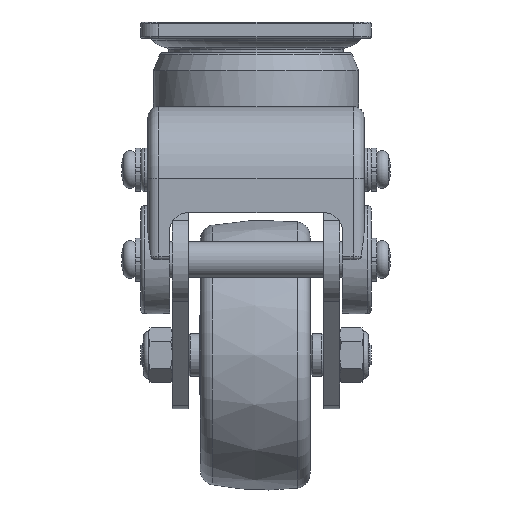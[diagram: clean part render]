
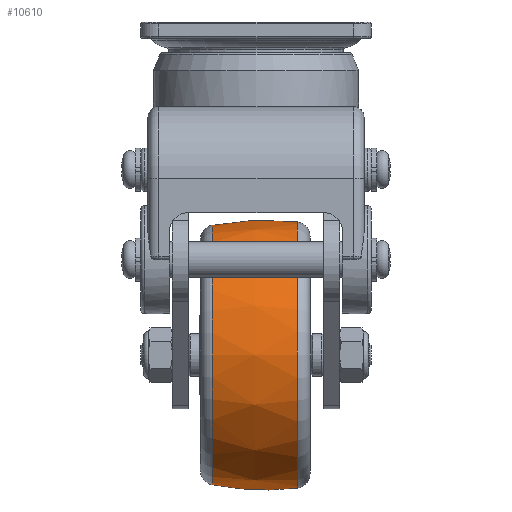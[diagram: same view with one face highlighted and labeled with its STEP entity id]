
A CAD part, left-side view. The second image highlights one B-rep face of the part: STEP entity #10610.
In plain terms, the highlighted free-form (B-spline) face has degree [2, 2] with [3, 9] control points.
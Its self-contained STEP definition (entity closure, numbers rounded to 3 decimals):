
#267=(
BOUNDED_SURFACE()
B_SPLINE_SURFACE(2,2,((#16954,#16955,#16956,#16957,#16958,#16959,#16960,
#16961,#16962),(#16963,#16964,#16965,#16966,#16967,#16968,#16969,#16970,
#16971),(#16972,#16973,#16974,#16975,#16976,#16977,#16978,#16979,#16980)),
 .UNSPECIFIED.,.F.,.T.,.F.)
B_SPLINE_SURFACE_WITH_KNOTS((3,3),(3,2,2,2,3),(-0.119,0.198),
(-3.142,-1.571,0.,1.571,3.142),
 .UNSPECIFIED.)
GEOMETRIC_REPRESENTATION_ITEM()
RATIONAL_B_SPLINE_SURFACE(((1.,0.707,1.,0.707,1.,
0.707,1.,0.707,1.),(0.987,0.698,
0.987,0.698,0.987,0.698,
0.987,0.698,0.987),(1.,0.707,
1.,0.707,1.,0.707,1.,0.707,1.)))
REPRESENTATION_ITEM('')
SURFACE()
);
#2890=FACE_OUTER_BOUND('',#3550,.T.);
#3550=EDGE_LOOP('',(#8589,#8590,#8591,#8592,#8593,#8594));
#4269=CIRCLE('',#11709,36.968);
#4270=CIRCLE('',#11710,36.968);
#4272=CIRCLE('',#11712,36.031);
#4273=CIRCLE('',#11713,36.031);
#4274=CIRCLE('',#11714,75.);
#4889=VERTEX_POINT('',#16949);
#4890=VERTEX_POINT('',#16950);
#4891=VERTEX_POINT('',#16981);
#4892=VERTEX_POINT('',#16982);
#6210=EDGE_CURVE('',#4889,#4890,#4269,.T.);
#6211=EDGE_CURVE('',#4890,#4889,#4270,.T.);
#6213=EDGE_CURVE('',#4891,#4892,#4272,.T.);
#6214=EDGE_CURVE('',#4892,#4891,#4273,.T.);
#6215=EDGE_CURVE('',#4892,#4890,#4274,.T.);
#8589=ORIENTED_EDGE('',*,*,#6213,.F.);
#8590=ORIENTED_EDGE('',*,*,#6214,.F.);
#8591=ORIENTED_EDGE('',*,*,#6215,.T.);
#8592=ORIENTED_EDGE('',*,*,#6211,.T.);
#8593=ORIENTED_EDGE('',*,*,#6210,.T.);
#8594=ORIENTED_EDGE('',*,*,#6215,.F.);
#10610=ADVANCED_FACE('',(#2890),#267,.F.);
#11709=AXIS2_PLACEMENT_3D('',#16951,#13773,#13774);
#11710=AXIS2_PLACEMENT_3D('',#16952,#13775,#13776);
#11712=AXIS2_PLACEMENT_3D('',#16983,#13779,#13780);
#11713=AXIS2_PLACEMENT_3D('',#16984,#13781,#13782);
#11714=AXIS2_PLACEMENT_3D('',#16985,#13783,#13784);
#13773=DIRECTION('center_axis',(0.,1.,0.));
#13774=DIRECTION('ref_axis',(1.,0.,0.));
#13775=DIRECTION('center_axis',(0.,1.,0.));
#13776=DIRECTION('ref_axis',(1.,0.,0.));
#13779=DIRECTION('center_axis',(0.,1.,0.));
#13780=DIRECTION('ref_axis',(1.,0.,0.));
#13781=DIRECTION('center_axis',(0.,1.,0.));
#13782=DIRECTION('ref_axis',(1.,0.,0.));
#13783=DIRECTION('center_axis',(-1.,0.,0.));
#13784=DIRECTION('ref_axis',(0.,0.,-1.));
#16949=CARTESIAN_POINT('',(0.,3.524,36.968));
#16950=CARTESIAN_POINT('',(0.,3.524,-36.968));
#16951=CARTESIAN_POINT('Origin',(0.,3.524,0.));
#16952=CARTESIAN_POINT('Origin',(0.,3.524,0.));
#16954=CARTESIAN_POINT('Ctrl Pts',(0.,3.524,-36.968));
#16955=CARTESIAN_POINT('Ctrl Pts',(-36.968,3.524,-36.968));
#16956=CARTESIAN_POINT('Ctrl Pts',(-36.968,3.524,0.));
#16957=CARTESIAN_POINT('Ctrl Pts',(-36.968,3.524,36.968));
#16958=CARTESIAN_POINT('Ctrl Pts',(0.,3.524,36.968));
#16959=CARTESIAN_POINT('Ctrl Pts',(36.968,3.524,36.968));
#16960=CARTESIAN_POINT('Ctrl Pts',(36.968,3.524,0.));
#16961=CARTESIAN_POINT('Ctrl Pts',(36.968,3.524,-36.968));
#16962=CARTESIAN_POINT('Ctrl Pts',(0.,3.524,-36.968));
#16963=CARTESIAN_POINT('Ctrl Pts',(0.,15.444,-38.395));
#16964=CARTESIAN_POINT('Ctrl Pts',(-38.395,15.444,-38.395));
#16965=CARTESIAN_POINT('Ctrl Pts',(-38.395,15.444,0.));
#16966=CARTESIAN_POINT('Ctrl Pts',(-38.395,15.444,38.395));
#16967=CARTESIAN_POINT('Ctrl Pts',(0.,15.444,38.395));
#16968=CARTESIAN_POINT('Ctrl Pts',(38.395,15.444,38.395));
#16969=CARTESIAN_POINT('Ctrl Pts',(38.395,15.444,0.));
#16970=CARTESIAN_POINT('Ctrl Pts',(38.395,15.444,-38.395));
#16971=CARTESIAN_POINT('Ctrl Pts',(0.,15.444,-38.395));
#16972=CARTESIAN_POINT('Ctrl Pts',(0.,27.214,-36.031));
#16973=CARTESIAN_POINT('Ctrl Pts',(-36.031,27.214,-36.031));
#16974=CARTESIAN_POINT('Ctrl Pts',(-36.031,27.214,0.));
#16975=CARTESIAN_POINT('Ctrl Pts',(-36.031,27.214,36.031));
#16976=CARTESIAN_POINT('Ctrl Pts',(0.,27.214,36.031));
#16977=CARTESIAN_POINT('Ctrl Pts',(36.031,27.214,36.031));
#16978=CARTESIAN_POINT('Ctrl Pts',(36.031,27.214,0.));
#16979=CARTESIAN_POINT('Ctrl Pts',(36.031,27.214,-36.031));
#16980=CARTESIAN_POINT('Ctrl Pts',(0.,27.214,-36.031));
#16981=CARTESIAN_POINT('',(0.,27.214,36.031));
#16982=CARTESIAN_POINT('',(0.,27.214,-36.031));
#16983=CARTESIAN_POINT('Origin',(0.,27.214,0.));
#16984=CARTESIAN_POINT('Origin',(0.,27.214,0.));
#16985=CARTESIAN_POINT('Origin',(0.,12.442,
37.5));
